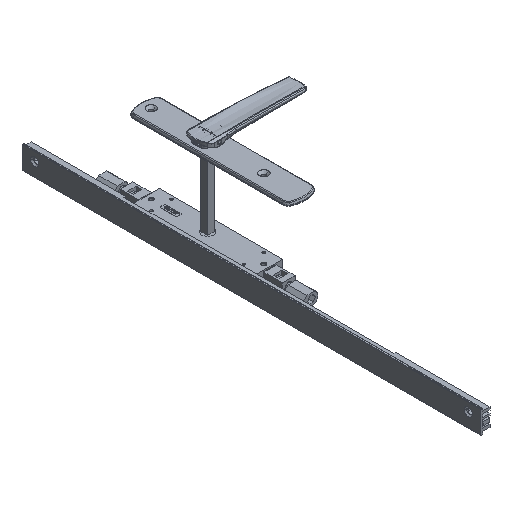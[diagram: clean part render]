
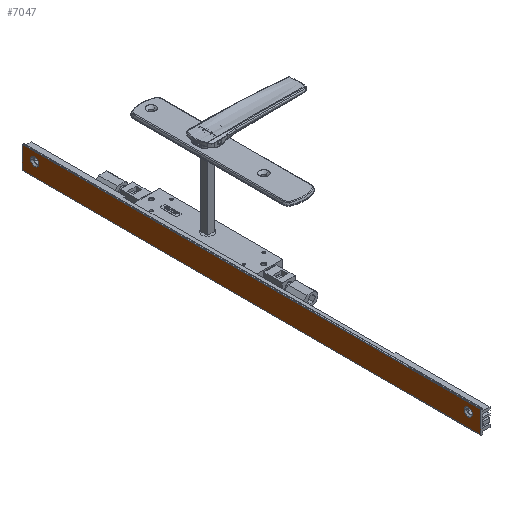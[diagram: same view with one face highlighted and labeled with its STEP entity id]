
A CAD part, isometric view. The second image highlights one B-rep face of the part: STEP entity #7047.
In plain terms, the highlighted planar face has unit normal (-1, 0, 0) as drawn and (0, 1, 0) by its records, which use the part's own axes.
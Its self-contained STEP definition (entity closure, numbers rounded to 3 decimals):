
#649 = VECTOR ( 'NONE', #8089, 1000. ) ;
#1017 = ORIENTED_EDGE ( 'NONE', *, *, #20875, .F. ) ;
#1476 = EDGE_LOOP ( 'NONE', ( #20228, #4884 ) ) ;
#1634 = VERTEX_POINT ( 'NONE', #30722 ) ;
#1739 = EDGE_CURVE ( 'NONE', #1634, #19130, #9521, .T. ) ;
#1910 = DIRECTION ( 'NONE',  ( 0., 0., 1. ) ) ;
#2050 = DIRECTION ( 'NONE',  ( 0., 0., 1. ) ) ;
#2555 = VERTEX_POINT ( 'NONE', #3855 ) ;
#3855 = CARTESIAN_POINT ( 'NONE',  ( 11.8, 12.4, 10.111 ) ) ;
#4483 = EDGE_LOOP ( 'NONE', ( #30320, #25836, #17767, #29962 ) ) ;
#4884 = ORIENTED_EDGE ( 'NONE', *, *, #8777, .F. ) ;
#4893 = CARTESIAN_POINT ( 'NONE',  ( 11.8, 12.4, 533.889 ) ) ;
#5241 = DIRECTION ( 'NONE',  ( 0., 0., 1. ) ) ;
#5367 = EDGE_CURVE ( 'NONE', #22815, #19130, #10753, .T. ) ;
#6251 = CARTESIAN_POINT ( 'NONE',  ( 11.8, 12.4, 19.89 ) ) ;
#6483 = CARTESIAN_POINT ( 'NONE',  ( 11.8, 12.4, 15. ) ) ;
#7007 = CARTESIAN_POINT ( 'NONE',  ( -4.4, 12.4, 0. ) ) ;
#7047 = ADVANCED_FACE ( 'NONE', ( #24175, #12125, #19458 ), #11803, .F. ) ;
#7088 = DIRECTION ( 'NONE',  ( 0., -1., 0. ) ) ;
#7737 = DIRECTION ( 'NONE',  ( 0., 1., 0. ) ) ;
#7988 = CARTESIAN_POINT ( 'NONE',  ( -4.4, 12.4, 544. ) ) ;
#8089 = DIRECTION ( 'NONE',  ( 0., 0., 1. ) ) ;
#8317 = ORIENTED_EDGE ( 'NONE', *, *, #27374, .F. ) ;
#8777 = EDGE_CURVE ( 'NONE', #30355, #15101, #10697, .T. ) ;
#8921 = DIRECTION ( 'NONE',  ( 0., 0., 1. ) ) ;
#9521 = LINE ( 'NONE', #7007, #11326 ) ;
#10208 = AXIS2_PLACEMENT_3D ( 'NONE', #27969, #25915, #2050 ) ;
#10697 = CIRCLE ( 'NONE', #10208, 4.889 ) ;
#10753 = LINE ( 'NONE', #15152, #27799 ) ;
#11326 = VECTOR ( 'NONE', #5241, 1000. ) ;
#11803 = PLANE ( 'NONE',  #21344 ) ;
#12125 = FACE_BOUND ( 'NONE', #1476, .T. ) ;
#12659 = DIRECTION ( 'NONE',  ( -1., 0., 0. ) ) ;
#12772 = CARTESIAN_POINT ( 'NONE',  ( 11.8, 12.4, 529. ) ) ;
#12802 = LINE ( 'NONE', #13265, #649 ) ;
#12895 = CARTESIAN_POINT ( 'NONE',  ( 20.8, 12.4, 0. ) ) ;
#13265 = CARTESIAN_POINT ( 'NONE',  ( 22., 12.4, 0. ) ) ;
#13593 = EDGE_CURVE ( 'NONE', #22892, #22815, #12802, .T. ) ;
#14012 = VECTOR ( 'NONE', #24659, 1000. ) ;
#14965 = AXIS2_PLACEMENT_3D ( 'NONE', #12772, #7737, #15416 ) ;
#15101 = VERTEX_POINT ( 'NONE', #4893 ) ;
#15152 = CARTESIAN_POINT ( 'NONE',  ( 20.8, 12.4, 544. ) ) ;
#15247 = EDGE_CURVE ( 'NONE', #22892, #1634, #22142, .T. ) ;
#15416 = DIRECTION ( 'NONE',  ( 0., 0., 1. ) ) ;
#17767 = ORIENTED_EDGE ( 'NONE', *, *, #5367, .F. ) ;
#17997 = AXIS2_PLACEMENT_3D ( 'NONE', #20826, #22889, #8921 ) ;
#19130 = VERTEX_POINT ( 'NONE', #7988 ) ;
#19458 = FACE_OUTER_BOUND ( 'NONE', #4483, .T. ) ;
#19467 = CARTESIAN_POINT ( 'NONE',  ( 22., 12.4, 544. ) ) ;
#20228 = ORIENTED_EDGE ( 'NONE', *, *, #26305, .F. ) ;
#20498 = CIRCLE ( 'NONE', #17997, 4.89 ) ;
#20826 = CARTESIAN_POINT ( 'NONE',  ( 11.8, 12.4, 15. ) ) ;
#20875 = EDGE_CURVE ( 'NONE', #2555, #27276, #25382, .T. ) ;
#21344 = AXIS2_PLACEMENT_3D ( 'NONE', #28592, #7088, #26231 ) ;
#21966 = CARTESIAN_POINT ( 'NONE',  ( 22., 12.4, 0. ) ) ;
#22142 = LINE ( 'NONE', #12895, #14012 ) ;
#22815 = VERTEX_POINT ( 'NONE', #19467 ) ;
#22889 = DIRECTION ( 'NONE',  ( 0., 1., 0. ) ) ;
#22892 = VERTEX_POINT ( 'NONE', #21966 ) ;
#24175 = FACE_BOUND ( 'NONE', #29079, .T. ) ;
#24659 = DIRECTION ( 'NONE',  ( -1., 0., 0. ) ) ;
#25382 = CIRCLE ( 'NONE', #29386, 4.89 ) ;
#25836 = ORIENTED_EDGE ( 'NONE', *, *, #1739, .T. ) ;
#25915 = DIRECTION ( 'NONE',  ( 0., 1., 0. ) ) ;
#25993 = CIRCLE ( 'NONE', #14965, 4.889 ) ;
#26231 = DIRECTION ( 'NONE',  ( 1., 0., 0. ) ) ;
#26305 = EDGE_CURVE ( 'NONE', #15101, #30355, #25993, .T. ) ;
#26562 = CARTESIAN_POINT ( 'NONE',  ( 11.8, 12.4, 524.111 ) ) ;
#27276 = VERTEX_POINT ( 'NONE', #6251 ) ;
#27374 = EDGE_CURVE ( 'NONE', #27276, #2555, #20498, .T. ) ;
#27799 = VECTOR ( 'NONE', #12659, 1000. ) ;
#27969 = CARTESIAN_POINT ( 'NONE',  ( 11.8, 12.4, 529. ) ) ;
#28451 = DIRECTION ( 'NONE',  ( 0., 1., 0. ) ) ;
#28592 = CARTESIAN_POINT ( 'NONE',  ( 20.8, 12.4, 544. ) ) ;
#29079 = EDGE_LOOP ( 'NONE', ( #8317, #1017 ) ) ;
#29386 = AXIS2_PLACEMENT_3D ( 'NONE', #6483, #28451, #1910 ) ;
#29962 = ORIENTED_EDGE ( 'NONE', *, *, #13593, .F. ) ;
#30320 = ORIENTED_EDGE ( 'NONE', *, *, #15247, .T. ) ;
#30355 = VERTEX_POINT ( 'NONE', #26562 ) ;
#30722 = CARTESIAN_POINT ( 'NONE',  ( -4.4, 12.4, 0. ) ) ;
